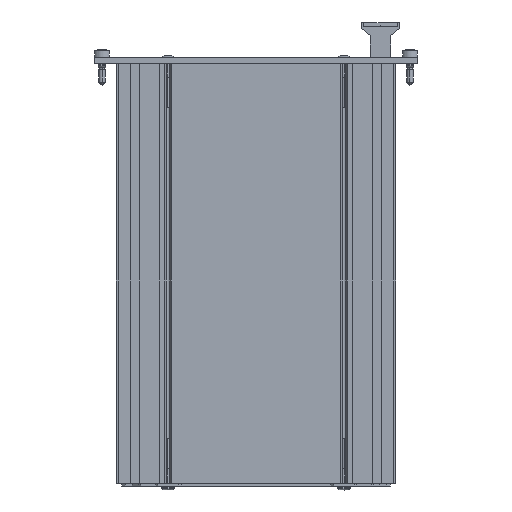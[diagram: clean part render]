
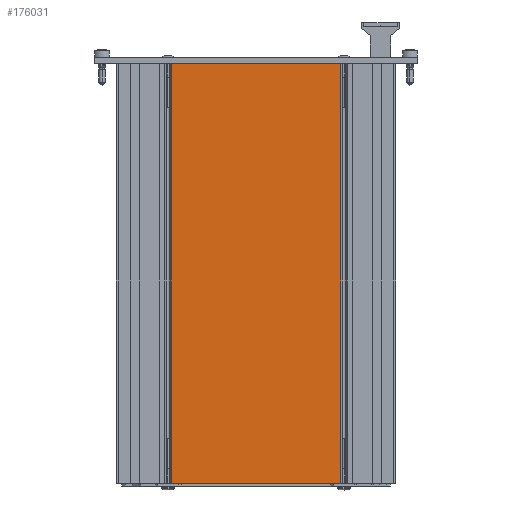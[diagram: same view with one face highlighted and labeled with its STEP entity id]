
A CAD part, left-side view. The second image highlights one B-rep face of the part: STEP entity #176031.
In plain terms, the highlighted planar face has unit normal (-1, 0, 0).
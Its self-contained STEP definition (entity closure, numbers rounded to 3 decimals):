
#3346 = CARTESIAN_POINT ( 'NONE',  ( -4.65, 61.2, 0. ) ) ;
#5942 = EDGE_LOOP ( 'NONE', ( #140562, #118421, #30834, #91183 ) ) ;
#10084 = LINE ( 'NONE', #14638, #142180 ) ;
#14638 = CARTESIAN_POINT ( 'NONE',  ( -4.65, 94.936, -166.9 ) ) ;
#24370 = EDGE_CURVE ( 'NONE', #162118, #36932, #10084, .T. ) ;
#26150 = CARTESIAN_POINT ( 'NONE',  ( -4.65, 94.936, 0. ) ) ;
#27267 = CARTESIAN_POINT ( 'NONE',  ( -4.65, 27.464, -166.9 ) ) ;
#30834 = ORIENTED_EDGE ( 'NONE', *, *, #32936, .F. ) ;
#32936 = EDGE_CURVE ( 'NONE', #36932, #192269, #55892, .T. ) ;
#36932 = VERTEX_POINT ( 'NONE', #26150 ) ;
#44023 = CARTESIAN_POINT ( 'NONE',  ( -4.65, 61.2, -166.9 ) ) ;
#50011 = AXIS2_PLACEMENT_3D ( 'NONE', #58768, #149426, #148141 ) ;
#55892 = LINE ( 'NONE', #3346, #74430 ) ;
#58768 = CARTESIAN_POINT ( 'NONE',  ( -4.65, 61.2, -166.9 ) ) ;
#67061 = VECTOR ( 'NONE', #143937, 1000. ) ;
#70079 = CARTESIAN_POINT ( 'NONE',  ( -4.65, 27.464, -166.9 ) ) ;
#74430 = VECTOR ( 'NONE', #121748, 1000. ) ;
#76772 = EDGE_CURVE ( 'NONE', #192269, #91397, #111067, .T. ) ;
#78111 = LINE ( 'NONE', #44023, #108185 ) ;
#90546 = DIRECTION ( 'NONE',  ( 0., 1., 0. ) ) ;
#91183 = ORIENTED_EDGE ( 'NONE', *, *, #24370, .F. ) ;
#91397 = VERTEX_POINT ( 'NONE', #27267 ) ;
#108185 = VECTOR ( 'NONE', #90546, 1000. ) ;
#111067 = LINE ( 'NONE', #70079, #67061 ) ;
#116896 = FACE_OUTER_BOUND ( 'NONE', #5942, .T. ) ;
#116990 = CARTESIAN_POINT ( 'NONE',  ( -4.65, 27.464, 0. ) ) ;
#118421 = ORIENTED_EDGE ( 'NONE', *, *, #76772, .F. ) ;
#121748 = DIRECTION ( 'NONE',  ( 0., -1., 0. ) ) ;
#140562 = ORIENTED_EDGE ( 'NONE', *, *, #182942, .F. ) ;
#142180 = VECTOR ( 'NONE', #149326, 1000. ) ;
#142782 = CARTESIAN_POINT ( 'NONE',  ( -4.65, 94.936, -166.9 ) ) ;
#143937 = DIRECTION ( 'NONE',  ( 0., 0., -1. ) ) ;
#148141 = DIRECTION ( 'NONE',  ( 0., 0., -1. ) ) ;
#149326 = DIRECTION ( 'NONE',  ( 0., 0., 1. ) ) ;
#149426 = DIRECTION ( 'NONE',  ( 1., 0., 0. ) ) ;
#162118 = VERTEX_POINT ( 'NONE', #142782 ) ;
#176031 = ADVANCED_FACE ( 'NONE', ( #116896 ), #192119, .F. ) ;
#182942 = EDGE_CURVE ( 'NONE', #91397, #162118, #78111, .T. ) ;
#192119 = PLANE ( 'NONE',  #50011 ) ;
#192269 = VERTEX_POINT ( 'NONE', #116990 ) ;
